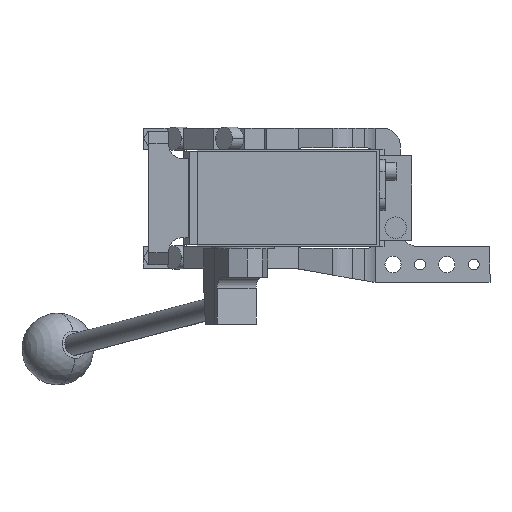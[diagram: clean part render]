
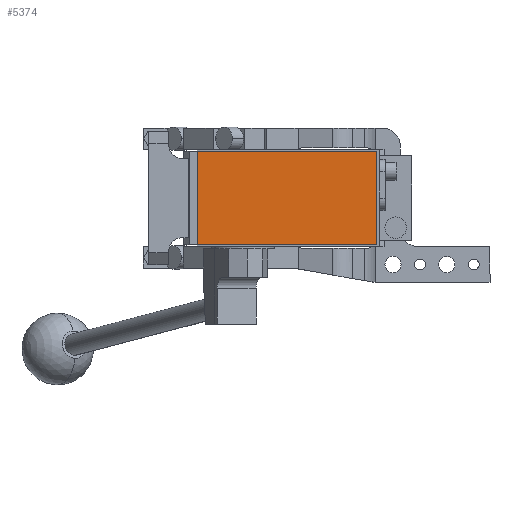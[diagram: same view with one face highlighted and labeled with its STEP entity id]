
A CAD part, front view. The second image highlights one B-rep face of the part: STEP entity #5374.
In plain terms, the highlighted planar face has unit normal (0, -1, 0).
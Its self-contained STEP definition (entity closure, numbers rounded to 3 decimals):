
#124 = VERTEX_POINT ( 'NONE', #709 ) ;
#154 = LINE ( 'NONE', #5169, #13470 ) ;
#558 = DIRECTION ( 'NONE',  ( -1., 0., 0. ) ) ;
#588 = PLANE ( 'NONE',  #4463 ) ;
#709 = CARTESIAN_POINT ( 'NONE',  ( 81., -286.5, -26. ) ) ;
#1251 = DIRECTION ( 'NONE',  ( 1., 0., 0. ) ) ;
#1263 = ORIENTED_EDGE ( 'NONE', *, *, #3695, .T. ) ;
#1564 = CARTESIAN_POINT ( 'NONE',  ( 81., -286.5, 26. ) ) ;
#1781 = VECTOR ( 'NONE', #4720, 1000. ) ;
#1824 = CARTESIAN_POINT ( 'NONE',  ( 0., -286.5, 0. ) ) ;
#2235 = DIRECTION ( 'NONE',  ( 0., 0., -1. ) ) ;
#2423 = LINE ( 'NONE', #15921, #1781 ) ;
#2890 = FACE_OUTER_BOUND ( 'NONE', #10076, .T. ) ;
#3568 = VECTOR ( 'NONE', #2235, 1000. ) ;
#3695 = EDGE_CURVE ( 'NONE', #8549, #6511, #9720, .T. ) ;
#3720 = ORIENTED_EDGE ( 'NONE', *, *, #15119, .T. ) ;
#3783 = VERTEX_POINT ( 'NONE', #1564 ) ;
#4463 = AXIS2_PLACEMENT_3D ( 'NONE', #1824, #4540, #9454 ) ;
#4540 = DIRECTION ( 'NONE',  ( 0., -1., 0. ) ) ;
#4720 = DIRECTION ( 'NONE',  ( 0., 0., 1. ) ) ;
#5169 = CARTESIAN_POINT ( 'NONE',  ( -19., -286.5, -26. ) ) ;
#5229 = ORIENTED_EDGE ( 'NONE', *, *, #16111, .T. ) ;
#5374 = ADVANCED_FACE ( 'NONE', ( #2890 ), #588, .T. ) ;
#6511 = VERTEX_POINT ( 'NONE', #6605 ) ;
#6605 = CARTESIAN_POINT ( 'NONE',  ( -19., -286.5, -26. ) ) ;
#6899 = CARTESIAN_POINT ( 'NONE',  ( -19., -286.5, 26. ) ) ;
#7656 = EDGE_CURVE ( 'NONE', #124, #3783, #2423, .T. ) ;
#8047 = LINE ( 'NONE', #6899, #11876 ) ;
#8549 = VERTEX_POINT ( 'NONE', #13456 ) ;
#9454 = DIRECTION ( 'NONE',  ( 0., 0., -1. ) ) ;
#9720 = LINE ( 'NONE', #14755, #3568 ) ;
#10076 = EDGE_LOOP ( 'NONE', ( #1263, #5229, #13057, #3720 ) ) ;
#11876 = VECTOR ( 'NONE', #558, 1000. ) ;
#13057 = ORIENTED_EDGE ( 'NONE', *, *, #7656, .T. ) ;
#13456 = CARTESIAN_POINT ( 'NONE',  ( -19., -286.5, 26. ) ) ;
#13470 = VECTOR ( 'NONE', #1251, 1000. ) ;
#14755 = CARTESIAN_POINT ( 'NONE',  ( -19., -286.5, 26. ) ) ;
#15119 = EDGE_CURVE ( 'NONE', #3783, #8549, #8047, .T. ) ;
#15921 = CARTESIAN_POINT ( 'NONE',  ( 81., -286.5, 26. ) ) ;
#16111 = EDGE_CURVE ( 'NONE', #6511, #124, #154, .T. ) ;
